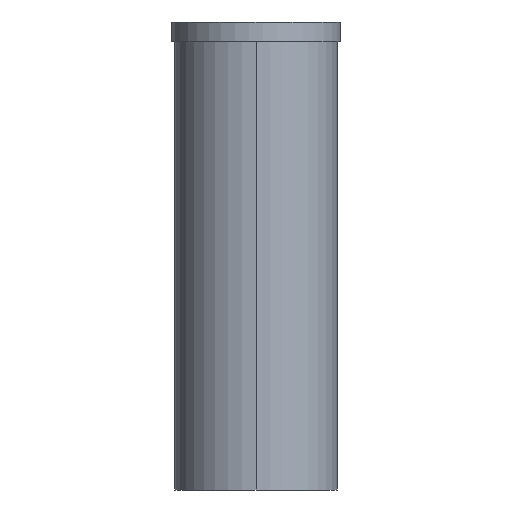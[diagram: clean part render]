
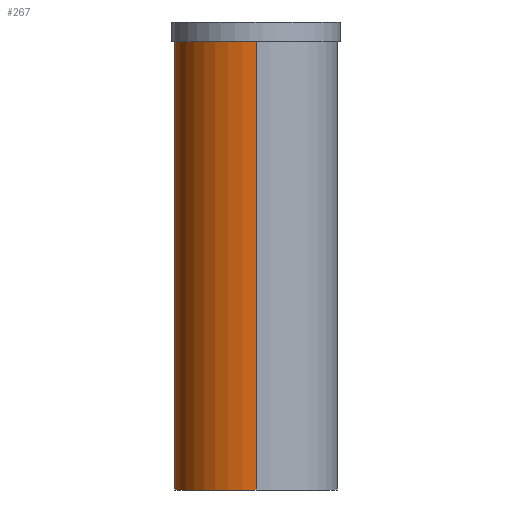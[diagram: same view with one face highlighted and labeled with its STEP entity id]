
A CAD part, left-side view. The second image highlights one B-rep face of the part: STEP entity #267.
In plain terms, the highlighted cylindrical face has radius 12.5 mm (diameter 25 mm), a partial arc.
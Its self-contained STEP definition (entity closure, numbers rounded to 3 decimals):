
#1=CARTESIAN_POINT('',(0.,0.,0.));
#2=DIRECTION('',(0.,0.,1.));
#3=DIRECTION('',(1.,0.,0.));
#4=AXIS2_PLACEMENT_3D('',#1,#2,#3);
#21=CARTESIAN_POINT('',(0.,0.,69.));
#22=DIRECTION('',(0.,0.,1.));
#23=DIRECTION('',(1.,0.,0.));
#24=AXIS2_PLACEMENT_3D('',#21,#22,#23);
#26=DIRECTION('',(0.,0.,1.));
#27=VECTOR('',#26,69.);
#28=CARTESIAN_POINT('',(12.5,0.,0.));
#29=LINE('',#28,#27);
#58=DIRECTION('',(0.,0.,1.));
#59=VECTOR('',#58,69.);
#60=CARTESIAN_POINT('',(-12.5,0.,0.));
#61=LINE('',#60,#59);
#183=CARTESIAN_POINT('',(12.5,0.,0.));
#184=CARTESIAN_POINT('',(-12.5,0.,0.));
#185=VERTEX_POINT('',#183);
#186=VERTEX_POINT('',#184);
#187=CARTESIAN_POINT('',(12.5,0.,69.));
#188=CARTESIAN_POINT('',(-12.5,0.,69.));
#189=VERTEX_POINT('',#187);
#190=VERTEX_POINT('',#188);
#253=CARTESIAN_POINT('',(0.,0.,0.));
#254=DIRECTION('',(0.,0.,1.));
#255=DIRECTION('',(1.,0.,0.));
#256=AXIS2_PLACEMENT_3D('',#253,#254,#255);
#257=CYLINDRICAL_SURFACE('',#256,12.5);
#259=ORIENTED_EDGE('',*,*,#258,.T.);
#261=ORIENTED_EDGE('',*,*,#260,.F.);
#262=ORIENTED_EDGE('',*,*,#240,.F.);
#264=ORIENTED_EDGE('',*,*,#263,.T.);
#265=EDGE_LOOP('',(#259,#261,#262,#264));
#266=FACE_OUTER_BOUND('',#265,.F.);
#267=ADVANCED_FACE('',(#266),#257,.T.);
#5=CIRCLE('',#4,12.5);
#25=CIRCLE('',#24,12.5);
#240=EDGE_CURVE('',#185,#186,#5,.T.);
#258=EDGE_CURVE('',#189,#190,#25,.T.);
#260=EDGE_CURVE('',#186,#190,#61,.T.);
#263=EDGE_CURVE('',#185,#189,#29,.T.);
